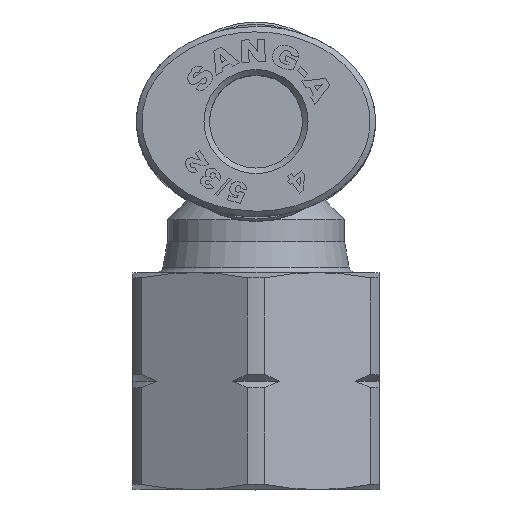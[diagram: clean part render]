
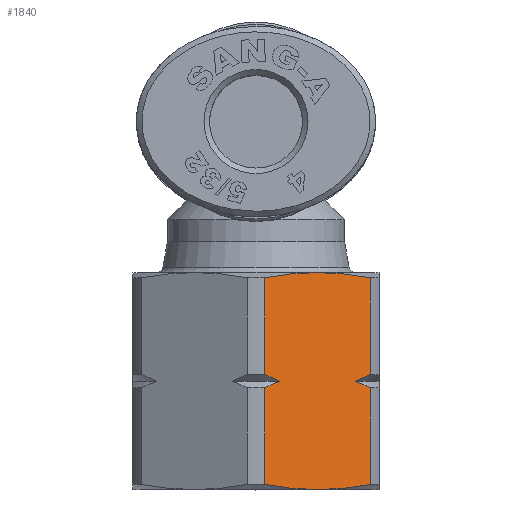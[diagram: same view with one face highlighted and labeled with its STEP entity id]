
A CAD part, top view. The second image highlights one B-rep face of the part: STEP entity #1840.
In plain terms, the highlighted planar face has unit normal (0.5, 0, 0.866).
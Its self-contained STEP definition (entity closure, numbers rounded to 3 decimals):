
#162=CARTESIAN_POINT('',(2.778,9.8,4.812));
#163=VERTEX_POINT('',#162);
#389=CARTESIAN_POINT('',(0.396,0.234,6.187));
#390=VERTEX_POINT('',#389);
#391=CARTESIAN_POINT('',(2.778,0.,4.812));
#392=VERTEX_POINT('',#391);
#393=CARTESIAN_POINT('',(0.396,0.234,6.187));
#394=CARTESIAN_POINT('',(1.652,0.,5.462));
#395=CARTESIAN_POINT('',(2.778,0.,4.812));
#403=(BOUNDED_CURVE()B_SPLINE_CURVE(2,(#393,#394,#395),.UNSPECIFIED.,.F.,.U.)B_SPLINE_CURVE_WITH_KNOTS((3,3),(0.0,0.276),.UNSPECIFIED.)CURVE()GEOMETRIC_REPRESENTATION_ITEM()RATIONAL_B_SPLINE_CURVE((1.0,1.029,1.0))REPRESENTATION_ITEM(''));
#404=EDGE_CURVE('',#390,#392,#403,.T.);
#512=CARTESIAN_POINT('',(5.161,0.234,3.436));
#513=VERTEX_POINT('',#512);
#521=CARTESIAN_POINT('',(2.778,0.,4.812));
#522=CARTESIAN_POINT('',(3.904,0.,4.162));
#523=CARTESIAN_POINT('',(5.161,0.234,3.436));
#531=(BOUNDED_CURVE()B_SPLINE_CURVE(2,(#521,#522,#523),.UNSPECIFIED.,.F.,.U.)B_SPLINE_CURVE_WITH_KNOTS((3,3),(0.276,0.553),.UNSPECIFIED.)CURVE()GEOMETRIC_REPRESENTATION_ITEM()RATIONAL_B_SPLINE_CURVE((1.0,1.029,1.0))REPRESENTATION_ITEM(''));
#532=EDGE_CURVE('',#392,#513,#531,.T.);
#549=CARTESIAN_POINT('',(0.396,9.566,6.187));
#550=VERTEX_POINT('',#549);
#551=CARTESIAN_POINT('',(2.778,9.8,4.812));
#552=CARTESIAN_POINT('',(1.652,9.8,5.462));
#553=CARTESIAN_POINT('',(0.396,9.566,6.187));
#561=(BOUNDED_CURVE()B_SPLINE_CURVE(2,(#551,#552,#553),.UNSPECIFIED.,.F.,.U.)B_SPLINE_CURVE_WITH_KNOTS((3,3),(0.276,0.553),.UNSPECIFIED.)CURVE()GEOMETRIC_REPRESENTATION_ITEM()RATIONAL_B_SPLINE_CURVE((1.0,1.029,1.0))REPRESENTATION_ITEM(''));
#562=EDGE_CURVE('',#163,#550,#561,.T.);
#611=CARTESIAN_POINT('',(5.161,9.566,3.436));
#612=VERTEX_POINT('',#611);
#613=CARTESIAN_POINT('',(5.161,9.566,3.436));
#614=CARTESIAN_POINT('',(3.904,9.8,4.162));
#615=CARTESIAN_POINT('',(2.778,9.8,4.812));
#623=(BOUNDED_CURVE()B_SPLINE_CURVE(2,(#613,#614,#615),.UNSPECIFIED.,.F.,.U.)B_SPLINE_CURVE_WITH_KNOTS((3,3),(0.0,0.276),.UNSPECIFIED.)CURVE()GEOMETRIC_REPRESENTATION_ITEM()RATIONAL_B_SPLINE_CURVE((1.0,1.029,1.0))REPRESENTATION_ITEM(''));
#624=EDGE_CURVE('',#612,#163,#623,.T.);
#1049=CARTESIAN_POINT('',(1.06,4.9,5.804));
#1050=VERTEX_POINT('',#1049);
#1051=CARTESIAN_POINT('',(0.396,4.6,6.187));
#1052=VERTEX_POINT('',#1051);
#1053=CARTESIAN_POINT('',(1.06,4.9,5.804));
#1054=CARTESIAN_POINT('',(0.736,4.774,5.991));
#1055=CARTESIAN_POINT('',(0.396,4.6,6.187));
#1063=(BOUNDED_CURVE()B_SPLINE_CURVE(2,(#1053,#1054,#1055),.UNSPECIFIED.,.F.,.U.)B_SPLINE_CURVE_WITH_KNOTS((3,3),(0.0,0.082),.UNSPECIFIED.)CURVE()GEOMETRIC_REPRESENTATION_ITEM()RATIONAL_B_SPLINE_CURVE((1.0,1.002,1.0))REPRESENTATION_ITEM(''));
#1064=EDGE_CURVE('',#1050,#1052,#1063,.T.);
#1105=CARTESIAN_POINT('',(5.161,4.6,3.436));
#1106=VERTEX_POINT('',#1105);
#1107=CARTESIAN_POINT('',(4.497,4.9,3.82));
#1108=VERTEX_POINT('',#1107);
#1109=CARTESIAN_POINT('',(5.161,4.6,3.436));
#1110=CARTESIAN_POINT('',(4.82,4.774,3.633));
#1111=CARTESIAN_POINT('',(4.497,4.9,3.82));
#1119=(BOUNDED_CURVE()B_SPLINE_CURVE(2,(#1109,#1110,#1111),.UNSPECIFIED.,.F.,.U.)B_SPLINE_CURVE_WITH_KNOTS((3,3),(0.0,0.082),.UNSPECIFIED.)CURVE()GEOMETRIC_REPRESENTATION_ITEM()RATIONAL_B_SPLINE_CURVE((1.0,1.002,1.0))REPRESENTATION_ITEM(''));
#1120=EDGE_CURVE('',#1106,#1108,#1119,.T.);
#1161=CARTESIAN_POINT('',(0.396,5.2,6.187));
#1162=VERTEX_POINT('',#1161);
#1163=CARTESIAN_POINT('',(0.396,5.2,6.187));
#1164=CARTESIAN_POINT('',(0.736,5.026,5.991));
#1165=CARTESIAN_POINT('',(1.06,4.9,5.804));
#1173=(BOUNDED_CURVE()B_SPLINE_CURVE(2,(#1163,#1164,#1165),.UNSPECIFIED.,.F.,.U.)B_SPLINE_CURVE_WITH_KNOTS((3,3),(0.0,0.082),.UNSPECIFIED.)CURVE()GEOMETRIC_REPRESENTATION_ITEM()RATIONAL_B_SPLINE_CURVE((1.0,1.002,1.0))REPRESENTATION_ITEM(''));
#1174=EDGE_CURVE('',#1162,#1050,#1173,.T.);
#1406=CARTESIAN_POINT('',(5.161,5.2,3.436));
#1407=VERTEX_POINT('',#1406);
#1415=CARTESIAN_POINT('',(4.497,4.9,3.82));
#1416=CARTESIAN_POINT('',(4.82,5.026,3.633));
#1417=CARTESIAN_POINT('',(5.161,5.2,3.436));
#1425=(BOUNDED_CURVE()B_SPLINE_CURVE(2,(#1415,#1416,#1417),.UNSPECIFIED.,.F.,.U.)B_SPLINE_CURVE_WITH_KNOTS((3,3),(0.0,0.082),.UNSPECIFIED.)CURVE()GEOMETRIC_REPRESENTATION_ITEM()RATIONAL_B_SPLINE_CURVE((1.0,1.002,1.0))REPRESENTATION_ITEM(''));
#1426=EDGE_CURVE('',#1108,#1407,#1425,.T.);
#1438=CARTESIAN_POINT('',(5.161,5.2,3.436));
#1439=DIRECTION('',(0.0,1.0,0.0));
#1440=VECTOR('',#1439,4.366);
#1441=LINE('',#1438,#1440);
#1442=EDGE_CURVE('',#1407,#612,#1441,.T.);
#1686=CARTESIAN_POINT('',(0.396,9.566,6.187));
#1687=DIRECTION('',(0.0,-1.0,0.0));
#1688=VECTOR('',#1687,4.366);
#1689=LINE('',#1686,#1688);
#1690=EDGE_CURVE('',#550,#1162,#1689,.T.);
#1768=CARTESIAN_POINT('',(5.161,0.234,3.436));
#1769=DIRECTION('',(0.0,1.0,0.0));
#1770=VECTOR('',#1769,4.366);
#1771=LINE('',#1768,#1770);
#1772=EDGE_CURVE('',#513,#1106,#1771,.T.);
#1805=CARTESIAN_POINT('',(0.396,4.6,6.187));
#1806=DIRECTION('',(0.0,-1.0,0.0));
#1807=VECTOR('',#1806,4.366);
#1808=LINE('',#1805,#1807);
#1809=EDGE_CURVE('',#1052,#390,#1808,.T.);
#1821=CARTESIAN_POINT('',(0.,0.0,6.416));
#1822=DIRECTION('',(0.5,0.0,0.866));
#1823=DIRECTION('',(0.866,0.0,-0.5));
#1824=AXIS2_PLACEMENT_3D('',#1821,#1822,#1823);
#1825=PLANE('',#1824);
#1826=ORIENTED_EDGE('',*,*,#532,.T.);
#1827=ORIENTED_EDGE('',*,*,#1772,.T.);
#1828=ORIENTED_EDGE('',*,*,#1120,.T.);
#1829=ORIENTED_EDGE('',*,*,#1426,.T.);
#1830=ORIENTED_EDGE('',*,*,#1442,.T.);
#1831=ORIENTED_EDGE('',*,*,#624,.T.);
#1832=ORIENTED_EDGE('',*,*,#562,.T.);
#1833=ORIENTED_EDGE('',*,*,#1690,.T.);
#1834=ORIENTED_EDGE('',*,*,#1174,.T.);
#1835=ORIENTED_EDGE('',*,*,#1064,.T.);
#1836=ORIENTED_EDGE('',*,*,#1809,.T.);
#1837=ORIENTED_EDGE('',*,*,#404,.T.);
#1838=EDGE_LOOP('',(#1826,#1827,#1828,#1829,#1830,#1831,#1832,#1833,#1834,#1835,#1836,#1837));
#1839=FACE_OUTER_BOUND('',#1838,.T.);
#1840=ADVANCED_FACE('',(#1839),#1825,.T.);
